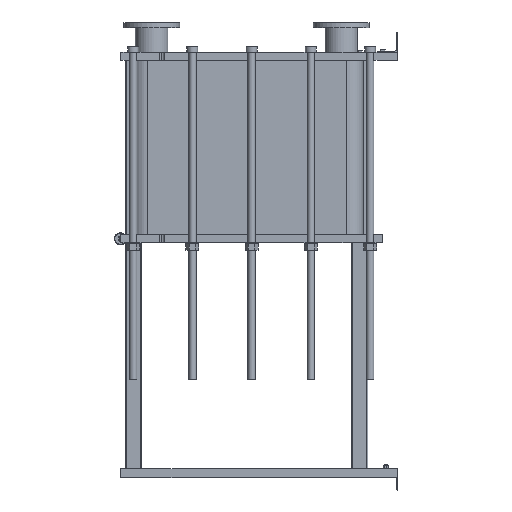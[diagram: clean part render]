
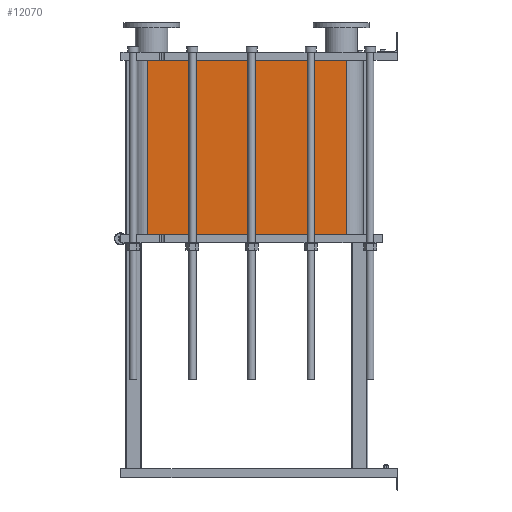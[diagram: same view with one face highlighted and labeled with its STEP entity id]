
A CAD part, left-side view. The second image highlights one B-rep face of the part: STEP entity #12070.
In plain terms, the highlighted planar face has unit normal (-1, 0, 0).
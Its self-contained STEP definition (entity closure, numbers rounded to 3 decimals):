
#1064=LINE('',#21140,#2164);
#1065=LINE('',#21144,#2165);
#1066=LINE('',#21146,#2166);
#1067=LINE('',#21147,#2167);
#2164=VECTOR('',#15790,10.);
#2165=VECTOR('',#15795,10.);
#2166=VECTOR('',#15796,10.);
#2167=VECTOR('',#15797,10.);
#3304=FACE_OUTER_BOUND('',#4091,.T.);
#4091=EDGE_LOOP('',(#9793,#9794,#9795,#9796));
#5677=VERTEX_POINT('',#21137);
#5678=VERTEX_POINT('',#21139);
#5679=VERTEX_POINT('',#21143);
#5680=VERTEX_POINT('',#21145);
#7118=EDGE_CURVE('',#5678,#5677,#1064,.T.);
#7120=EDGE_CURVE('',#5677,#5679,#1065,.T.);
#7121=EDGE_CURVE('',#5680,#5679,#1066,.T.);
#7122=EDGE_CURVE('',#5680,#5678,#1067,.T.);
#9793=ORIENTED_EDGE('',*,*,#7120,.T.);
#9794=ORIENTED_EDGE('',*,*,#7121,.F.);
#9795=ORIENTED_EDGE('',*,*,#7122,.T.);
#9796=ORIENTED_EDGE('',*,*,#7118,.T.);
#11441=PLANE('',#13191);
#12070=ADVANCED_FACE('',(#3304),#11441,.T.);
#13191=AXIS2_PLACEMENT_3D('',#21142,#15793,#15794);
#15790=DIRECTION('',(0.,0.,-1.));
#15793=DIRECTION('center_axis',(-1.,0.,0.));
#15794=DIRECTION('ref_axis',(0.,1.,0.));
#15795=DIRECTION('',(0.,-1.,0.));
#15796=DIRECTION('',(0.,0.,-1.));
#15797=DIRECTION('',(0.,1.,0.));
#21137=CARTESIAN_POINT('',(-248.152,1243.818,-865.95));
#21139=CARTESIAN_POINT('',(-248.152,1243.818,0.));
#21140=CARTESIAN_POINT('',(-248.152,1243.818,0.));
#21142=CARTESIAN_POINT('Origin',(-248.152,251.818,0.));
#21143=CARTESIAN_POINT('',(-248.152,251.818,-865.95));
#21144=CARTESIAN_POINT('',(-248.152,499.818,-865.95));
#21145=CARTESIAN_POINT('',(-248.152,251.818,0.));
#21146=CARTESIAN_POINT('',(-248.152,251.818,0.));
#21147=CARTESIAN_POINT('',(-248.152,251.818,0.));
